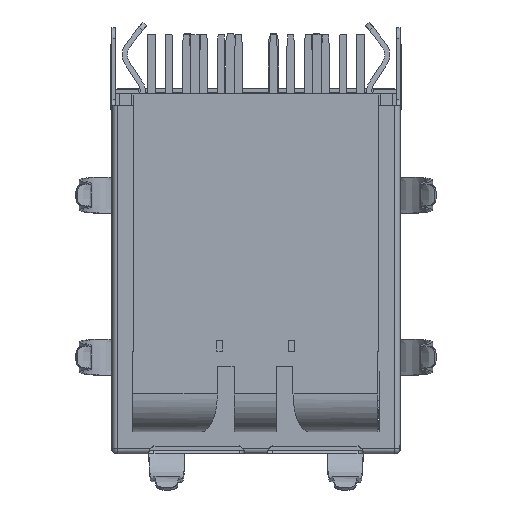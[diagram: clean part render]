
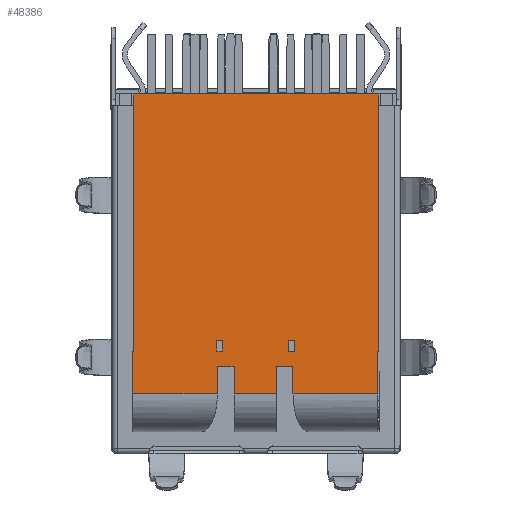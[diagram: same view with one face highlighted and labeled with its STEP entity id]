
A CAD part, front view. The second image highlights one B-rep face of the part: STEP entity #48386.
In plain terms, the highlighted planar face has unit normal (0, -1, 0).
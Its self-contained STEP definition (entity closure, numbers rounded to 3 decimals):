
#917=DIRECTION('',(0.,0.,-1.));
#918=VECTOR('',#917,15.);
#919=CARTESIAN_POINT('',(-7.13,-16.,10.5));
#920=LINE('',#919,#918);
#13407=DIRECTION('',(0.,0.,1.));
#13408=VECTOR('',#13407,15.);
#13409=CARTESIAN_POINT('',(7.12,-16.,-4.5));
#13410=LINE('',#13409,#13408);
#13476=DIRECTION('',(0.,0.,1.));
#13477=VECTOR('',#13476,2.5);
#13478=CARTESIAN_POINT('',(7.1,-16.,-7.));
#13479=LINE('',#13478,#13477);
#13712=DIRECTION('',(0.,0.,-1.));
#13713=VECTOR('',#13712,2.5);
#13714=CARTESIAN_POINT('',(-7.2,-16.,-4.5));
#13715=LINE('',#13714,#13713);
#13721=DIRECTION('',(-1.,0.,0.));
#13722=VECTOR('',#13721,0.02);
#13723=CARTESIAN_POINT('',(7.12,-16.,-4.5));
#13724=LINE('',#13723,#13722);
#13725=DIRECTION('',(0.,0.,1.));
#13726=VECTOR('',#13725,1.6);
#13727=CARTESIAN_POINT('',(2.158,-16.,-7.));
#13728=LINE('',#13727,#13726);
#13729=DIRECTION('',(0.,0.,-1.));
#13730=VECTOR('',#13729,1.6);
#13731=CARTESIAN_POINT('',(1.175,-16.,-5.4));
#13732=LINE('',#13731,#13730);
#13733=DIRECTION('',(0.,0.,1.));
#13734=VECTOR('',#13733,1.6);
#13735=CARTESIAN_POINT('',(-1.275,-16.,-7.));
#13736=LINE('',#13735,#13734);
#13737=DIRECTION('',(0.,0.,-1.));
#13738=VECTOR('',#13737,1.6);
#13739=CARTESIAN_POINT('',(-2.258,-16.,-5.4));
#13740=LINE('',#13739,#13738);
#13741=DIRECTION('',(1.,0.,0.));
#13742=VECTOR('',#13741,0.07);
#13743=CARTESIAN_POINT('',(-7.2,-16.,-4.5));
#13744=LINE('',#13743,#13742);
#13745=DIRECTION('',(1.,0.,0.));
#13746=VECTOR('',#13745,14.25);
#13747=CARTESIAN_POINT('',(-7.13,-16.,10.5));
#13748=LINE('',#13747,#13746);
#13749=DIRECTION('',(-1.,0.,0.));
#13750=VECTOR('',#13749,0.395);
#13751=CARTESIAN_POINT('',(2.27,-16.,-3.86));
#13752=LINE('',#13751,#13750);
#13753=DIRECTION('',(1.,0.,0.));
#13754=VECTOR('',#13753,0.395);
#13755=CARTESIAN_POINT('',(1.875,-16.,-4.5));
#13756=LINE('',#13755,#13754);
#13757=DIRECTION('',(0.,0.,1.));
#13758=VECTOR('',#13757,0.64);
#13759=CARTESIAN_POINT('',(2.27,-16.,-4.5));
#13760=LINE('',#13759,#13758);
#13761=DIRECTION('',(0.,0.,-1.));
#13762=VECTOR('',#13761,0.64);
#13763=CARTESIAN_POINT('',(-2.28,-16.,-3.86));
#13764=LINE('',#13763,#13762);
#13765=DIRECTION('',(1.,0.,0.));
#13766=VECTOR('',#13765,0.305);
#13767=CARTESIAN_POINT('',(-2.28,-16.,-4.5));
#13768=LINE('',#13767,#13766);
#13769=DIRECTION('',(0.,0.,1.));
#13770=VECTOR('',#13769,0.64);
#13771=CARTESIAN_POINT('',(-1.975,-16.,-4.5));
#13772=LINE('',#13771,#13770);
#13773=DIRECTION('',(-1.,0.,0.));
#13774=VECTOR('',#13773,0.305);
#13775=CARTESIAN_POINT('',(-1.975,-16.,-3.86));
#13776=LINE('',#13775,#13774);
#13787=DIRECTION('',(1.,0.,0.));
#13788=VECTOR('',#13787,4.942);
#13789=CARTESIAN_POINT('',(2.158,-16.,-7.));
#13790=LINE('',#13789,#13788);
#13852=DIRECTION('',(1.,0.,0.));
#13853=VECTOR('',#13852,0.983);
#13854=CARTESIAN_POINT('',(1.175,-16.,-5.4));
#13855=LINE('',#13854,#13853);
#14009=DIRECTION('',(1.,0.,0.));
#14010=VECTOR('',#14009,0.983);
#14011=CARTESIAN_POINT('',(-2.258,-16.,-5.4));
#14012=LINE('',#14011,#14010);
#14017=DIRECTION('',(1.,0.,0.));
#14018=VECTOR('',#14017,2.45);
#14019=CARTESIAN_POINT('',(-1.275,-16.,-7.));
#14020=LINE('',#14019,#14018);
#14045=DIRECTION('',(1.,0.,0.));
#14046=VECTOR('',#14045,4.942);
#14047=CARTESIAN_POINT('',(-7.2,-16.,-7.));
#14048=LINE('',#14047,#14046);
#14049=CARTESIAN_POINT('',(-2.258,-16.,-7.));
#21818=DIRECTION('',(0.,0.,1.));
#21819=VECTOR('',#21818,0.64);
#21820=CARTESIAN_POINT('',(1.875,-16.,-4.5));
#21821=LINE('',#21820,#21819);
#25700=CARTESIAN_POINT('',(-7.13,-16.,-4.5));
#25701=VERTEX_POINT('',#25700);
#25702=CARTESIAN_POINT('',(-7.2,-16.,-4.5));
#25703=VERTEX_POINT('',#25702);
#25704=CARTESIAN_POINT('',(2.27,-16.,-4.5));
#25706=VERTEX_POINT('',#25704);
#25708=CARTESIAN_POINT('',(1.875,-16.,-4.5));
#25709=VERTEX_POINT('',#25708);
#25713=CARTESIAN_POINT('',(-2.28,-16.,-4.5));
#25715=VERTEX_POINT('',#25713);
#25718=CARTESIAN_POINT('',(-1.975,-16.,-4.5));
#25719=VERTEX_POINT('',#25718);
#25756=CARTESIAN_POINT('',(-7.13,-16.,10.5));
#25757=VERTEX_POINT('',#25756);
#25904=CARTESIAN_POINT('',(-7.2,-16.,-7.));
#25905=VERTEX_POINT('',#25904);
#26251=CARTESIAN_POINT('',(7.1,-16.,-7.));
#26252=VERTEX_POINT('',#26251);
#26253=CARTESIAN_POINT('',(7.1,-16.,-4.5));
#26254=VERTEX_POINT('',#26253);
#26260=CARTESIAN_POINT('',(2.158,-16.,-5.4));
#26261=VERTEX_POINT('',#26260);
#26262=CARTESIAN_POINT('',(2.158,-16.,-7.));
#26263=VERTEX_POINT('',#26262);
#26724=CARTESIAN_POINT('',(1.175,-16.,-7.));
#26725=VERTEX_POINT('',#26724);
#26726=CARTESIAN_POINT('',(1.175,-16.,-5.4));
#26727=VERTEX_POINT('',#26726);
#26738=CARTESIAN_POINT('',(-1.275,-16.,-5.4));
#26739=VERTEX_POINT('',#26738);
#26740=CARTESIAN_POINT('',(-1.275,-16.,-7.));
#26741=VERTEX_POINT('',#26740);
#26742=CARTESIAN_POINT('',(-2.258,-16.,-5.4));
#26743=VERTEX_POINT('',#26742);
#26746=VERTEX_POINT('',#14049);
#26750=CARTESIAN_POINT('',(7.12,-16.,-4.5));
#26751=VERTEX_POINT('',#26750);
#26752=CARTESIAN_POINT('',(7.12,-16.,10.5));
#26753=VERTEX_POINT('',#26752);
#26754=CARTESIAN_POINT('',(2.27,-16.,-3.86));
#26755=CARTESIAN_POINT('',(1.875,-16.,-3.86));
#26756=VERTEX_POINT('',#26754);
#26757=VERTEX_POINT('',#26755);
#26758=CARTESIAN_POINT('',(-2.28,-16.,-3.86));
#26759=VERTEX_POINT('',#26758);
#26760=CARTESIAN_POINT('',(-1.975,-16.,-3.86));
#26761=VERTEX_POINT('',#26760);
#48334=CARTESIAN_POINT('',(-0.005,-16.,8.9));
#48335=DIRECTION('',(0.,1.,0.));
#48336=DIRECTION('',(1.,0.,0.));
#48337=AXIS2_PLACEMENT_3D('',#48334,#48335,#48336);
#48338=PLANE('',#48337);
#48339=ORIENTED_EDGE('',*,*,#48001,.T.);
#48340=ORIENTED_EDGE('',*,*,#48024,.F.);
#48342=ORIENTED_EDGE('',*,*,#48341,.F.);
#48344=ORIENTED_EDGE('',*,*,#48343,.T.);
#48346=ORIENTED_EDGE('',*,*,#48345,.F.);
#48348=ORIENTED_EDGE('',*,*,#48347,.T.);
#48350=ORIENTED_EDGE('',*,*,#48349,.F.);
#48352=ORIENTED_EDGE('',*,*,#48351,.T.);
#48354=ORIENTED_EDGE('',*,*,#48353,.F.);
#48355=ORIENTED_EDGE('',*,*,#48233,.T.);
#48357=ORIENTED_EDGE('',*,*,#48356,.F.);
#48358=ORIENTED_EDGE('',*,*,#48325,.F.);
#48359=ORIENTED_EDGE('',*,*,#32462,.T.);
#48360=ORIENTED_EDGE('',*,*,#32505,.F.);
#48362=ORIENTED_EDGE('',*,*,#48361,.T.);
#48363=ORIENTED_EDGE('',*,*,#47966,.F.);
#48364=EDGE_LOOP('',(#48339,#48340,#48342,#48344,#48346,#48348,#48350,#48352,
#48354,#48355,#48357,#48358,#48359,#48360,#48362,#48363));
#48365=FACE_OUTER_BOUND('',#48364,.F.);
#48367=ORIENTED_EDGE('',*,*,#48366,.T.);
#48369=ORIENTED_EDGE('',*,*,#48368,.F.);
#48371=ORIENTED_EDGE('',*,*,#48370,.T.);
#48373=ORIENTED_EDGE('',*,*,#48372,.T.);
#48374=EDGE_LOOP('',(#48367,#48369,#48371,#48373));
#48375=FACE_BOUND('',#48374,.F.);
#48377=ORIENTED_EDGE('',*,*,#48376,.T.);
#48379=ORIENTED_EDGE('',*,*,#48378,.T.);
#48381=ORIENTED_EDGE('',*,*,#48380,.T.);
#48383=ORIENTED_EDGE('',*,*,#48382,.T.);
#48384=EDGE_LOOP('',(#48377,#48379,#48381,#48383));
#48385=FACE_BOUND('',#48384,.F.);
#48386=ADVANCED_FACE('',(#48365,#48375,#48385),#48338,.F.);
#32462=EDGE_CURVE('',#25703,#25701,#13744,.T.);
#32505=EDGE_CURVE('',#25757,#25701,#920,.T.);
#47966=EDGE_CURVE('',#26751,#26753,#13410,.T.);
#48001=EDGE_CURVE('',#26751,#26254,#13724,.T.);
#48024=EDGE_CURVE('',#26252,#26254,#13479,.T.);
#48233=EDGE_CURVE('',#26743,#26746,#13740,.T.);
#48325=EDGE_CURVE('',#25703,#25905,#13715,.T.);
#48341=EDGE_CURVE('',#26263,#26252,#13790,.T.);
#48343=EDGE_CURVE('',#26263,#26261,#13728,.T.);
#48345=EDGE_CURVE('',#26727,#26261,#13855,.T.);
#48347=EDGE_CURVE('',#26727,#26725,#13732,.T.);
#48349=EDGE_CURVE('',#26741,#26725,#14020,.T.);
#48351=EDGE_CURVE('',#26741,#26739,#13736,.T.);
#48353=EDGE_CURVE('',#26743,#26739,#14012,.T.);
#48356=EDGE_CURVE('',#25905,#26746,#14048,.T.);
#48361=EDGE_CURVE('',#25757,#26753,#13748,.T.);
#48366=EDGE_CURVE('',#26756,#26757,#13752,.T.);
#48368=EDGE_CURVE('',#25709,#26757,#21821,.T.);
#48370=EDGE_CURVE('',#25709,#25706,#13756,.T.);
#48372=EDGE_CURVE('',#25706,#26756,#13760,.T.);
#48376=EDGE_CURVE('',#26759,#25715,#13764,.T.);
#48378=EDGE_CURVE('',#25715,#25719,#13768,.T.);
#48380=EDGE_CURVE('',#25719,#26761,#13772,.T.);
#48382=EDGE_CURVE('',#26761,#26759,#13776,.T.);
